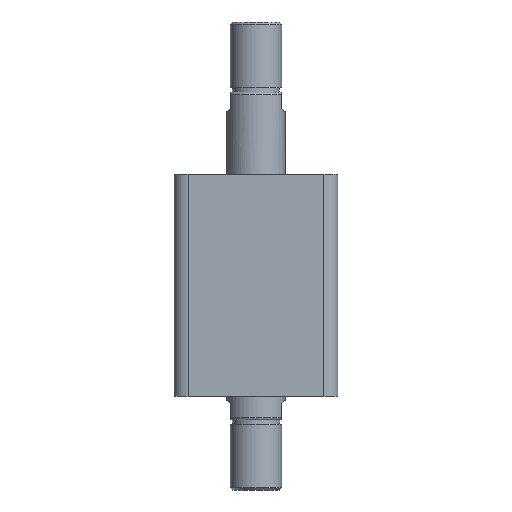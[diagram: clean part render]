
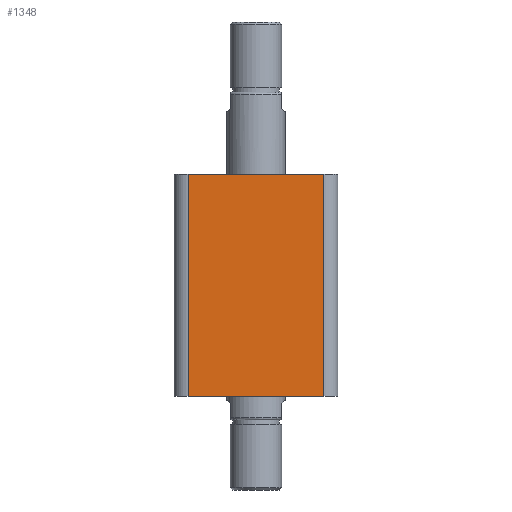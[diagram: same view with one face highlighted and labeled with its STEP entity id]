
A CAD part, front view. The second image highlights one B-rep face of the part: STEP entity #1348.
In plain terms, the highlighted planar face has unit normal (0, -1, 0).
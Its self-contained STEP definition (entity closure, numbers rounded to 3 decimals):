
#156 = CARTESIAN_POINT ( 'NONE',  ( -35., -35., 95. ) ) ;
#158 = PLANE ( 'NONE',  #3231 ) ;
#160 = DIRECTION ( 'NONE',  ( 0., 1., 0. ) ) ;
#161 = DIRECTION ( 'NONE',  ( 0., 0., 1. ) ) ;
#454 = FACE_OUTER_BOUND ( 'NONE', #2792, .T. ) ;
#1348 = ADVANCED_FACE ( 'NONE', ( #454 ), #158, .F. ) ;
#1424 = ORIENTED_EDGE ( 'NONE', *, *, #2949, .F. ) ;
#1425 = ORIENTED_EDGE ( 'NONE', *, *, #2950, .T. ) ;
#1426 = ORIENTED_EDGE ( 'NONE', *, *, #2951, .T. ) ;
#1427 = ORIENTED_EDGE ( 'NONE', *, *, #2952, .T. ) ;
#1487 = VERTEX_POINT ( 'NONE', #1785 ) ;
#1550 = VERTEX_POINT ( 'NONE', #1844 ) ;
#1551 = VERTEX_POINT ( 'NONE', #1845 ) ;
#1785 = CARTESIAN_POINT ( 'NONE',  ( -29., -35., 95. ) ) ;
#1844 = CARTESIAN_POINT ( 'NONE',  ( 29., -35., 0. ) ) ;
#1845 = CARTESIAN_POINT ( 'NONE',  ( -29., -35., 0. ) ) ;
#1896 = CARTESIAN_POINT ( 'NONE',  ( 29., -35., 95. ) ) ;
#2111 = CARTESIAN_POINT ( 'NONE',  ( -35., -35., 0. ) ) ;
#2121 = CARTESIAN_POINT ( 'NONE',  ( -35., -35., 95. ) ) ;
#2122 = DIRECTION ( 'NONE',  ( 1., 0., 0. ) ) ;
#2123 = CARTESIAN_POINT ( 'NONE',  ( -29., -35., 95. ) ) ;
#2124 = DIRECTION ( 'NONE',  ( 0., 0., -1. ) ) ;
#2125 = DIRECTION ( 'NONE',  ( 1., 0., 0. ) ) ;
#2126 = CARTESIAN_POINT ( 'NONE',  ( 29., -35., 95. ) ) ;
#2127 = DIRECTION ( 'NONE',  ( 0., 0., 1. ) ) ;
#2218 = VERTEX_POINT ( 'NONE', #1896 ) ;
#2367 = LINE ( 'NONE', #2111, #2391 ) ;
#2378 = LINE ( 'NONE', #2121, #2384 ) ;
#2382 = LINE ( 'NONE', #2123, #2388 ) ;
#2384 = VECTOR ( 'NONE', #2122, 1000. ) ;
#2388 = VECTOR ( 'NONE', #2124, 1000. ) ;
#2389 = LINE ( 'NONE', #2126, #2393 ) ;
#2391 = VECTOR ( 'NONE', #2125, 1000. ) ;
#2393 = VECTOR ( 'NONE', #2127, 1000. ) ;
#2792 = EDGE_LOOP ( 'NONE', ( #1424, #1425, #1426, #1427 ) ) ;
#2949 = EDGE_CURVE ( 'NONE', #1487, #2218, #2378, .T. ) ;
#2950 = EDGE_CURVE ( 'NONE', #1487, #1551, #2382, .T. ) ;
#2951 = EDGE_CURVE ( 'NONE', #1551, #1550, #2367, .T. ) ;
#2952 = EDGE_CURVE ( 'NONE', #1550, #2218, #2389, .T. ) ;
#3231 = AXIS2_PLACEMENT_3D ( 'NONE', #156, #160, #161 ) ;
